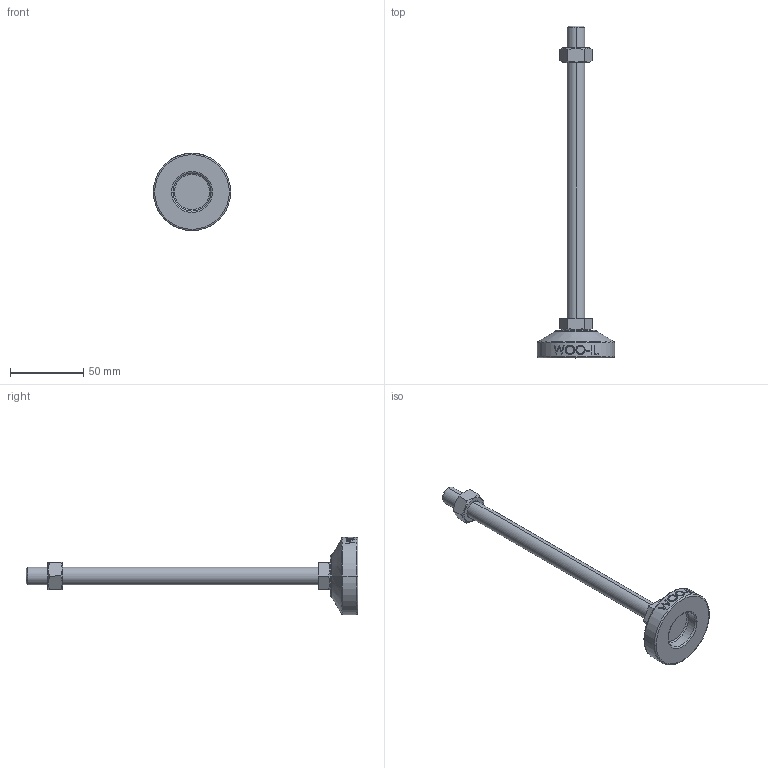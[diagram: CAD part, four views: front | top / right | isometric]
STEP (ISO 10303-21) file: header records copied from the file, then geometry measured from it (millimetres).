
FILE_DESCRIPTION (( 'STEP AP214' ), '1' );
FILE_NAME ('MFZ53-M12-200.step', '2021-01-15T07:03:51', ( '' ), ( '' ), 'SwSTEP 2.0', 'SolidWorks 2019', '' );
FILE_SCHEMA (( 'AUTOMOTIVE_DESIGN' ));
Length unit declared in the file: millimetre
Products named in the file (2): MFZ53-M12-200
Bounding box: 53 x 227 x 53 mm (x, y, z)
Volume: 57113.4 mm3; surface area: 17089.1 mm2
Topology: 3 solids, 3 shells, 106 faces, 243 edges, 154 vertices
Faces by surface type: plane 48, cylinder 18, bspline 16, cone 14, torus 10
Entity records: 4508 total; most frequent: CARTESIAN_POINT 2165, ORIENTED_EDGE 486, DIRECTION 439, EDGE_CURVE 243, AXIS2_PLACEMENT_3D 170, VERTEX_POINT 154, EDGE_LOOP 119, ADVANCED_FACE 106
